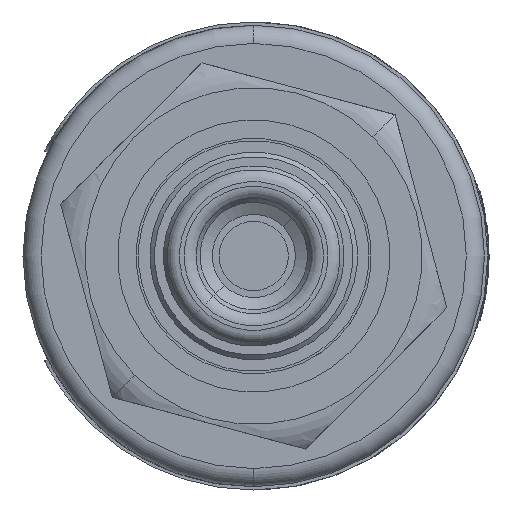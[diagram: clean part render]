
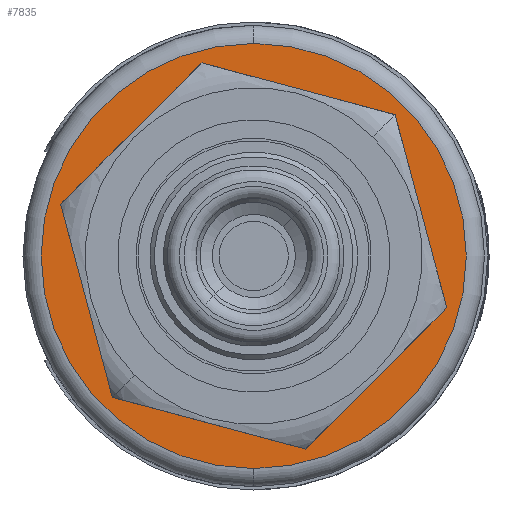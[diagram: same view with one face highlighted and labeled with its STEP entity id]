
A CAD part, front view. The second image highlights one B-rep face of the part: STEP entity #7835.
In plain terms, the highlighted planar face has unit normal (0, -1, 0).
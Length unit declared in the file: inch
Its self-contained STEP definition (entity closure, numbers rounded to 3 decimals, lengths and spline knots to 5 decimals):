
#151 = DIRECTION ( 'NONE',  ( 0., -1., 0. ) ) ;
#160 = CARTESIAN_POINT ( 'NONE',  ( 0., 0.15748, 0.1875 ) ) ;
#256 = VERTEX_POINT ( 'NONE', #2862 ) ;
#655 = CIRCLE ( 'NONE', #10081, 0.1875 ) ;
#1393 = DIRECTION ( 'NONE',  ( 0., -1., 0. ) ) ;
#1398 = VERTEX_POINT ( 'NONE', #5925 ) ;
#1689 = DIRECTION ( 'NONE',  ( 0., -1., 0. ) ) ;
#2320 = CARTESIAN_POINT ( 'NONE',  ( 0., 0.15748, 0. ) ) ;
#2473 = DIRECTION ( 'NONE',  ( 0., 0., -1. ) ) ;
#2516 = FACE_BOUND ( 'NONE', #4487, .T. ) ;
#2570 = CARTESIAN_POINT ( 'NONE',  ( 0., 0.15748, 0. ) ) ;
#2622 = FACE_OUTER_BOUND ( 'NONE', #6851, .T. ) ;
#2673 = PLANE ( 'NONE',  #4574 ) ;
#2862 = CARTESIAN_POINT ( 'NONE',  ( 0., 0.15748, -0.1875 ) ) ;
#3125 = EDGE_CURVE ( 'NONE', #1398, #3472, #3830, .T. ) ;
#3237 = CIRCLE ( 'NONE', #9147, 0.46063 ) ;
#3472 = VERTEX_POINT ( 'NONE', #5986 ) ;
#3666 = EDGE_CURVE ( 'NONE', #256, #8907, #655, .T. ) ;
#3830 = CIRCLE ( 'NONE', #4514, 0.46063 ) ;
#3865 = DIRECTION ( 'NONE',  ( 0., 0., -1. ) ) ;
#3932 = AXIS2_PLACEMENT_3D ( 'NONE', #9605, #8808, #6431 ) ;
#4081 = ORIENTED_EDGE ( 'NONE', *, *, #3125, .T. ) ;
#4487 = EDGE_LOOP ( 'NONE', ( #4982, #10375 ) ) ;
#4514 = AXIS2_PLACEMENT_3D ( 'NONE', #10153, #1393, #3865 ) ;
#4574 = AXIS2_PLACEMENT_3D ( 'NONE', #2570, #151, #5094 ) ;
#4982 = ORIENTED_EDGE ( 'NONE', *, *, #3666, .F. ) ;
#5094 = DIRECTION ( 'NONE',  ( 0., 0., -1. ) ) ;
#5925 = CARTESIAN_POINT ( 'NONE',  ( 0., 0.15748, 0.46063 ) ) ;
#5986 = CARTESIAN_POINT ( 'NONE',  ( 0., 0.15748, -0.46063 ) ) ;
#6431 = DIRECTION ( 'NONE',  ( 0., 0., -1. ) ) ;
#6851 = EDGE_LOOP ( 'NONE', ( #9590, #4081 ) ) ;
#7399 = DIRECTION ( 'NONE',  ( 0., -1., 0. ) ) ;
#7835 = ADVANCED_FACE ( 'NONE', ( #2622, #2516 ), #2673, .T. ) ;
#8242 = CARTESIAN_POINT ( 'NONE',  ( 0., 0.15748, 0. ) ) ;
#8808 = DIRECTION ( 'NONE',  ( 0., -1., 0. ) ) ;
#8821 = EDGE_CURVE ( 'NONE', #3472, #1398, #3237, .T. ) ;
#8907 = VERTEX_POINT ( 'NONE', #160 ) ;
#9147 = AXIS2_PLACEMENT_3D ( 'NONE', #2320, #1689, #2473 ) ;
#9590 = ORIENTED_EDGE ( 'NONE', *, *, #8821, .T. ) ;
#9605 = CARTESIAN_POINT ( 'NONE',  ( 0., 0.15748, 0. ) ) ;
#9893 = DIRECTION ( 'NONE',  ( 0., 0., -1. ) ) ;
#10011 = CIRCLE ( 'NONE', #3932, 0.1875 ) ;
#10081 = AXIS2_PLACEMENT_3D ( 'NONE', #8242, #7399, #9893 ) ;
#10117 = EDGE_CURVE ( 'NONE', #8907, #256, #10011, .T. ) ;
#10153 = CARTESIAN_POINT ( 'NONE',  ( 0., 0.15748, 0. ) ) ;
#10375 = ORIENTED_EDGE ( 'NONE', *, *, #10117, .F. ) ;
